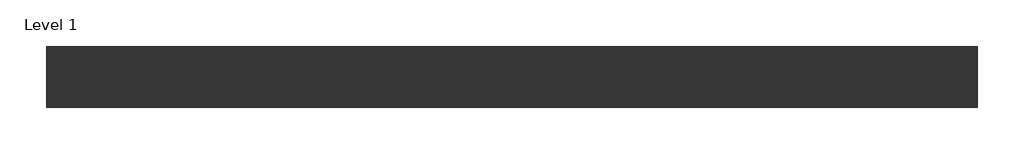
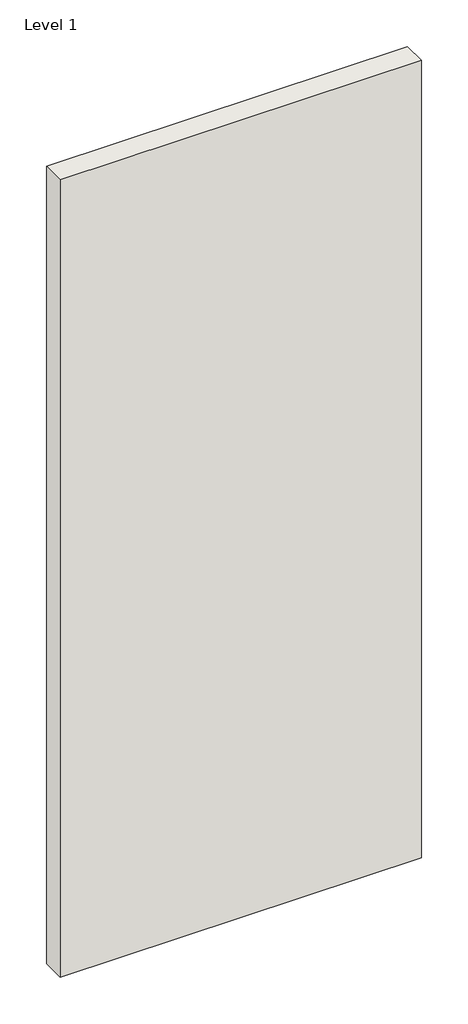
# One storey: 1 wall.
"""IFC4 building model written with IfcOpenShell, lengths in millimetres."""

from ifc_helpers import new_model, si_unit, origin, origin_with_axes, place, context, project, spatial, polyline, outline, extrude, element, save

model = new_model("IFC4")

# Units and contexts
model_context = context("Model", 3, world=origin())
ifc_project = project(units=[si_unit("LENGTHUNIT", "METRE", prefix="MILLI")], contexts=[model_context])

# Site, building, storey
site = spatial("IfcSite", under=ifc_project)
building = spatial("IfcBuilding", under=site)
storey = spatial("IfcBuildingStorey", under=building, Name="Level 1", Elevation=0.0)

# Wall
placement = place(None, origin())
element("IfcWall", 1, ObjectType="Tabique Simple – Placo® 78(48) BA15 + 48LM + BA15 c/400 - 43,2 dBA", at=placement, inside=storey, context=model_context, shape_type="SweptSolid", body=[
    extrude(outline(polyline([(-27296.4711674, -78952.3970389), (-28496.4711674, -78952.3970389), (-28496.4711674, -78874.3970389), (-27296.4711674, -78874.3970389), (-27296.4711674, -78952.3970389)])), origin_with_axes(), (0.0, 0.0, 1.0), 2800.0),
])

save(model, "model.ifc")
